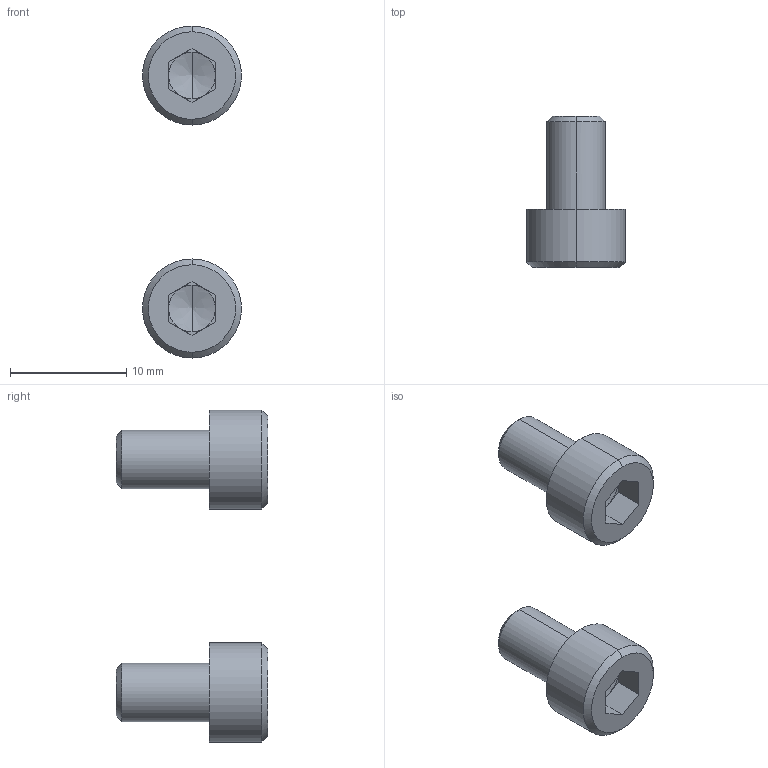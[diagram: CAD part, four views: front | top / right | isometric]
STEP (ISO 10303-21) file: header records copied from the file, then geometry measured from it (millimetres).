
FILE_DESCRIPTION(/* description */ (''),/* implementation_level */ '2;1');
FILE_NAME(/* name */ '6.y-drive#6.9#CB5-8',/* time_stamp */ '2014-12-01T20:16:08+01:00',/* author */ (''),/* organization */ (''),/* preprocessor_version */ 'ST-DEVELOPER v14',/* originating_system */ '',/* authorisation */ '');
FILE_SCHEMA (('AUTOMOTIVE_DESIGN'));
Length unit declared in the file: millimetre
Products named in the file (1): Document
Bounding box: 8.5 x 13 x 28.5 mm (x, y, z)
Volume: 798.1 mm3; surface area: 789.7 mm2
Topology: 2 solids, 2 shells, 50 faces, 112 edges, 66 vertices
Faces by surface type: plane 30, bspline 20
Entity records: 2731 total; most frequent: CARTESIAN_POINT 1257, B_SPLINE_CURVE_WITH_KNOTS 252, ORIENTED_EDGE 216, PCURVE 216, DEFINITIONAL_REPRESENTATION 216, SURFACE_CURVE 108, EDGE_CURVE 108, VERTEX_POINT 66
